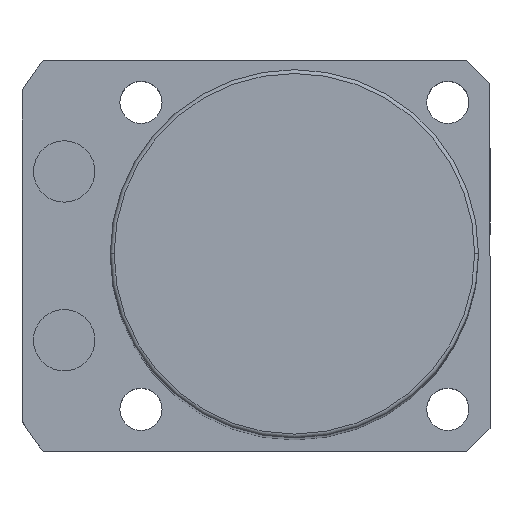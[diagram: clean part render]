
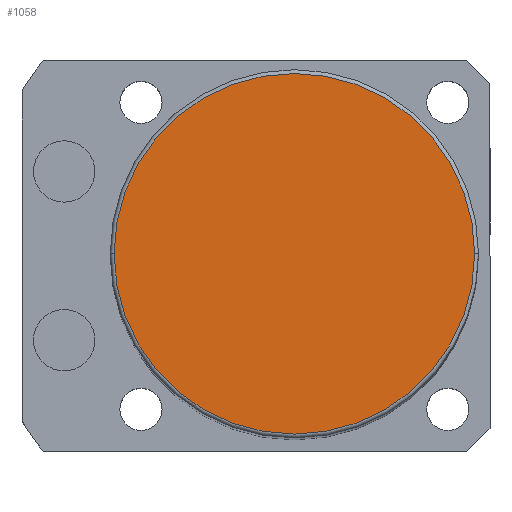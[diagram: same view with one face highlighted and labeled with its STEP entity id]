
A CAD part, top view. The second image highlights one B-rep face of the part: STEP entity #1058.
In plain terms, the highlighted planar face has unit normal (0, 0, 1).
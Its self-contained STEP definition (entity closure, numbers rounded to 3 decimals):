
#13 = DIRECTION ( 'NONE',  ( 0., 0., 1. ) ) ;
#40 = VERTEX_POINT ( 'NONE', #1948 ) ;
#161 = CARTESIAN_POINT ( 'NONE',  ( -23.5, 0., 166. ) ) ;
#169 = CIRCLE ( 'NONE', #1946, 23.5 ) ;
#171 = AXIS2_PLACEMENT_3D ( 'NONE', #605, #13, #1043 ) ;
#524 = CARTESIAN_POINT ( 'NONE',  ( 0., 0., 166. ) ) ;
#595 = ORIENTED_EDGE ( 'NONE', *, *, #1971, .T. ) ;
#605 = CARTESIAN_POINT ( 'NONE',  ( 0., 0., 166. ) ) ;
#1043 = DIRECTION ( 'NONE',  ( 1., 0., 0. ) ) ;
#1058 = ADVANCED_FACE ( 'NONE', ( #1268 ), #1184, .T. ) ;
#1098 = DIRECTION ( 'NONE',  ( 0., 0., 1. ) ) ;
#1184 = PLANE ( 'NONE',  #1697 ) ;
#1268 = FACE_OUTER_BOUND ( 'NONE', #1987, .T. ) ;
#1301 = DIRECTION ( 'NONE',  ( 1., 0., 0. ) ) ;
#1697 = AXIS2_PLACEMENT_3D ( 'NONE', #524, #2015, #2263 ) ;
#1946 = AXIS2_PLACEMENT_3D ( 'NONE', #2366, #1098, #1301 ) ;
#1948 = CARTESIAN_POINT ( 'NONE',  ( 23.5, 0., 166. ) ) ;
#1971 = EDGE_CURVE ( 'NONE', #40, #2709, #169, .T. ) ;
#1987 = EDGE_LOOP ( 'NONE', ( #595, #2376 ) ) ;
#2015 = DIRECTION ( 'NONE',  ( 0., 0., 1. ) ) ;
#2263 = DIRECTION ( 'NONE',  ( 1., 0., 0. ) ) ;
#2365 = EDGE_CURVE ( 'NONE', #2709, #40, #2599, .T. ) ;
#2366 = CARTESIAN_POINT ( 'NONE',  ( 0., 0., 166. ) ) ;
#2376 = ORIENTED_EDGE ( 'NONE', *, *, #2365, .T. ) ;
#2599 = CIRCLE ( 'NONE', #171, 23.5 ) ;
#2709 = VERTEX_POINT ( 'NONE', #161 ) ;
